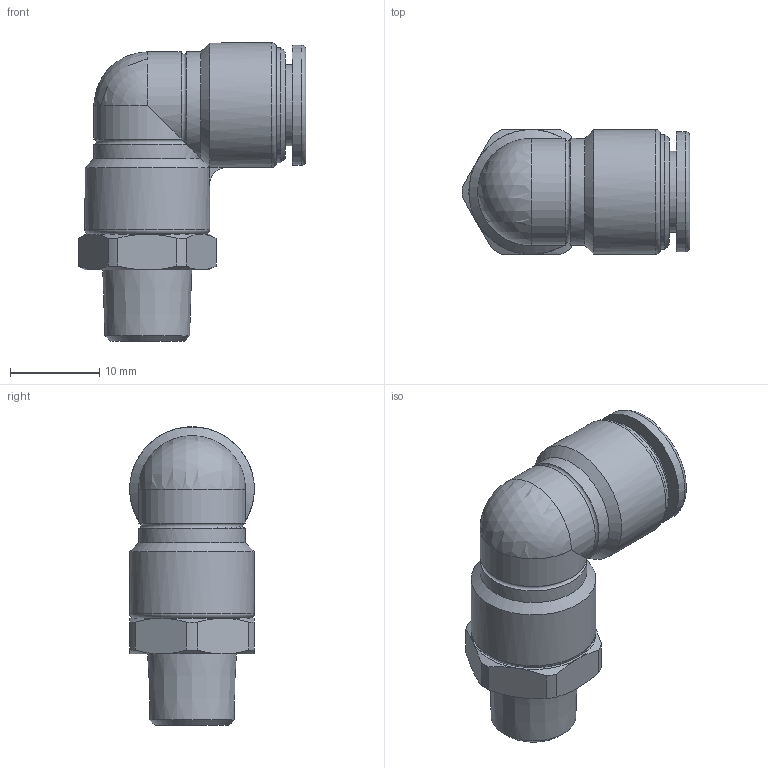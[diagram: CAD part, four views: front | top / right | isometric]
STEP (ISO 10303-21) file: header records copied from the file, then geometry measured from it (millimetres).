
FILE_DESCRIPTION(/* description */ (''),/* implementation_level */ '2;1');
FILE_NAME(/* name */ 'E:\2013年度版　3D-DATA\【02】 TOUCH CONNECTOR FIVE SUS\[02] MALE ELBOW\[08] FS8-01ML FS8-01MLW.stp',/* time_stamp */ '2013-08-06T16:49:40+09:00',/* author */ ('takahashi-pc2'),/* organization */ (''),/* preprocessor_version */ 'ST-DEVELOPER v15.2',/* originating_system */ 'Autodesk Inventor 2014',/* authorisation */ '');
FILE_SCHEMA (('AUTOMOTIVE_DESIGN { 1 0 10303 214 3 1 1 }'));
Length unit declared in the file: millimetre
Products named in the file (1): [08] FS8-01ML FS8-01MLW
Bounding box: 25.55 x 14 x 33.5 mm (x, y, z)
Volume: 4820 mm3; surface area: 2580.2 mm2
Topology: 1 solids, 1 shells, 60 faces, 135 edges, 81 vertices
Faces by surface type: plane 20, cone 17, cylinder 17, torus 5, sphere 1
Full cylindrical faces by diameter (mm): 8 x1, 9.1 x1, 12.9 x1, 13.5 x1, 14 x2
Entity records: 1627 total; most frequent: CARTESIAN_POINT 367, DIRECTION 272, ORIENTED_EDGE 242, AXIS2_PLACEMENT_3D 122, EDGE_CURVE 121, VERTEX_POINT 81, EDGE_LOOP 78, ADVANCED_FACE 60
